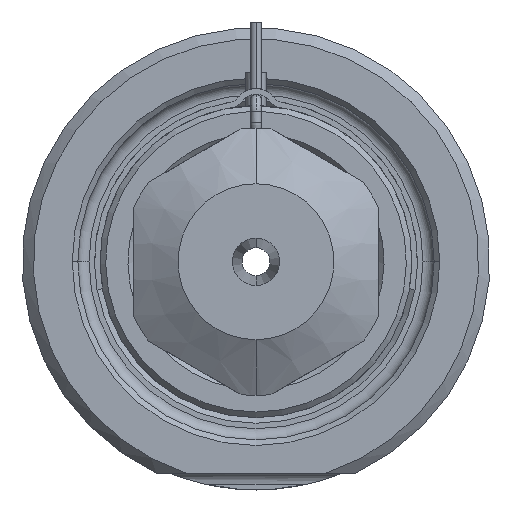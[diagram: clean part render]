
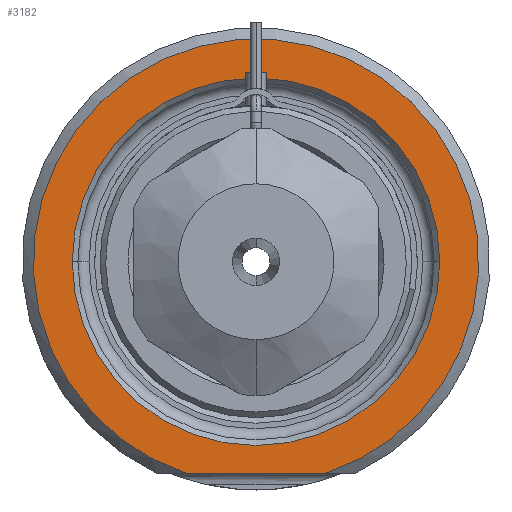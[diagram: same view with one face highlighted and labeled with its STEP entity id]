
A CAD part, front view. The second image highlights one B-rep face of the part: STEP entity #3182.
In plain terms, the highlighted planar face has unit normal (0, -1, 0).
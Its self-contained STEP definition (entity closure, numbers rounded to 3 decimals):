
#1=DIRECTION('',(1.,0.,0.));
#2=VECTOR('',#1,12.49);
#3=CARTESIAN_POINT('',(-6.245,0.,-19.));
#4=LINE('',#3,#2);
#5=CARTESIAN_POINT('',(0.,0.,0.));
#6=DIRECTION('',(0.,1.,0.));
#7=DIRECTION('',(-1.,0.,0.));
#8=AXIS2_PLACEMENT_3D('',#5,#6,#7);
#10=CARTESIAN_POINT('',(0.,0.,0.));
#11=DIRECTION('',(0.,1.,0.));
#12=DIRECTION('',(1.,0.,0.));
#13=AXIS2_PLACEMENT_3D('',#10,#11,#12);
#119=CARTESIAN_POINT('',(0.,0.,0.));
#120=DIRECTION('',(0.,-1.,0.));
#121=DIRECTION('',(0.312,0.,-0.95));
#122=AXIS2_PLACEMENT_3D('',#119,#120,#121);
#2641=CARTESIAN_POINT('',(-16.5,0.,0.));
#2642=CARTESIAN_POINT('',(16.5,0.,0.));
#2643=VERTEX_POINT('',#2641);
#2644=VERTEX_POINT('',#2642);
#2695=CARTESIAN_POINT('',(-6.245,0.,-19.));
#2696=CARTESIAN_POINT('',(6.245,0.,-19.));
#2697=VERTEX_POINT('',#2695);
#2698=VERTEX_POINT('',#2696);
#3165=CARTESIAN_POINT('',(0.,0.,0.));
#3166=DIRECTION('',(0.,-1.,0.));
#3167=DIRECTION('',(1.,0.,0.));
#3168=AXIS2_PLACEMENT_3D('',#3165,#3166,#3167);
#3169=PLANE('',#3168);
#3171=ORIENTED_EDGE('',*,*,#3170,.F.);
#3173=ORIENTED_EDGE('',*,*,#3172,.F.);
#3174=EDGE_LOOP('',(#3171,#3173));
#3175=FACE_OUTER_BOUND('',#3174,.F.);
#3177=ORIENTED_EDGE('',*,*,#3176,.F.);
#3179=ORIENTED_EDGE('',*,*,#3178,.F.);
#3180=EDGE_LOOP('',(#3177,#3179));
#3181=FACE_BOUND('',#3180,.F.);
#3182=ADVANCED_FACE('',(#3175,#3181),#3169,.T.);
#9=CIRCLE('',#8,16.5);
#14=CIRCLE('',#13,16.5);
#123=CIRCLE('',#122,20.);
#3170=EDGE_CURVE('',#2697,#2698,#4,.T.);
#3172=EDGE_CURVE('',#2698,#2697,#123,.T.);
#3176=EDGE_CURVE('',#2643,#2644,#9,.T.);
#3178=EDGE_CURVE('',#2644,#2643,#14,.T.);
